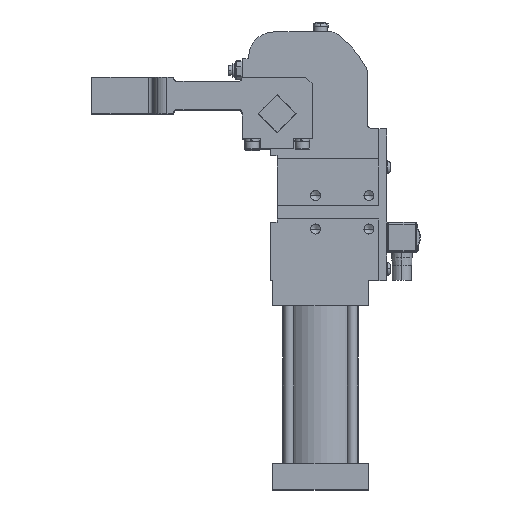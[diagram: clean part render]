
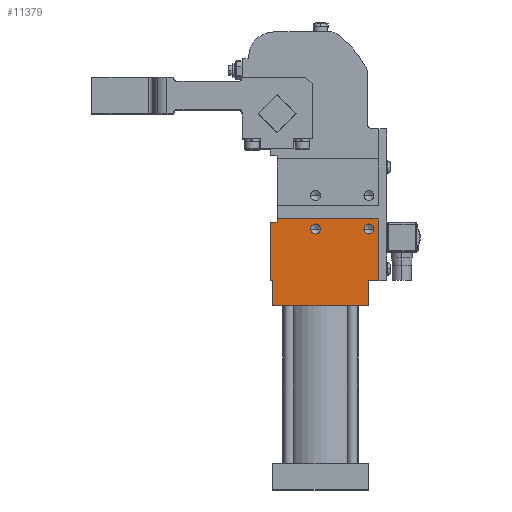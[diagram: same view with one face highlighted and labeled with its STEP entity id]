
A CAD part, top view. The second image highlights one B-rep face of the part: STEP entity #11379.
In plain terms, the highlighted planar face has unit normal (0, 0, 1).
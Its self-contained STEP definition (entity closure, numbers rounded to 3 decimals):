
#687=CARTESIAN_POINT('',(48.648,-66.104,50.0));
#688=VERTEX_POINT('',#687);
#704=CARTESIAN_POINT('',(42.648,-66.104,50.0));
#705=VERTEX_POINT('',#704);
#712=CARTESIAN_POINT('',(45.648,-66.104,50.0));
#713=DIRECTION('',(0.0,0.0,-1.0));
#714=DIRECTION('',(1.0,0.0,0.0));
#715=AXIS2_PLACEMENT_3D('',#712,#713,#714);
#716=CIRCLE('',#715,3.);
#717=EDGE_CURVE('',#688,#705,#716,.T.);
#1026=CARTESIAN_POINT('',(16.648,-66.104,50.0));
#1027=VERTEX_POINT('',#1026);
#1043=CARTESIAN_POINT('',(10.648,-66.104,50.0));
#1044=VERTEX_POINT('',#1043);
#1051=CARTESIAN_POINT('',(13.648,-66.104,50.0));
#1052=DIRECTION('',(0.0,0.0,-1.0));
#1053=DIRECTION('',(1.0,0.0,0.0));
#1054=AXIS2_PLACEMENT_3D('',#1051,#1052,#1053);
#1055=CIRCLE('',#1054,3.);
#1056=EDGE_CURVE('',#1027,#1044,#1055,.T.);
#7633=CARTESIAN_POINT('',(51.648,-97.104,50.0));
#7634=VERTEX_POINT('',#7633);
#7641=CARTESIAN_POINT('',(45.223,-97.104,50.0));
#7642=VERTEX_POINT('',#7641);
#7643=CARTESIAN_POINT('',(51.648,-97.104,50.0));
#7644=DIRECTION('',(-1.0,0.0,0.0));
#7645=VECTOR('',#7644,6.425);
#7646=LINE('',#7643,#7645);
#7647=EDGE_CURVE('',#7634,#7642,#7646,.T.);
#9717=CARTESIAN_POINT('',(13.648,-66.104,50.0));
#9718=DIRECTION('',(0.0,0.0,-1.0));
#9719=DIRECTION('',(1.0,0.0,0.0));
#9720=AXIS2_PLACEMENT_3D('',#9717,#9718,#9719);
#9721=CIRCLE('',#9720,3.);
#9722=EDGE_CURVE('',#1044,#1027,#9721,.T.);
#9930=CARTESIAN_POINT('',(45.648,-66.104,50.0));
#9931=DIRECTION('',(0.0,0.0,-1.0));
#9932=DIRECTION('',(1.0,0.0,0.0));
#9933=AXIS2_PLACEMENT_3D('',#9930,#9931,#9932);
#9934=CIRCLE('',#9933,3.);
#9935=EDGE_CURVE('',#705,#688,#9934,.T.);
#10085=CARTESIAN_POINT('',(45.223,-112.104,50.0));
#10086=VERTEX_POINT('',#10085);
#10093=CARTESIAN_POINT('',(-11.927,-112.104,50.0));
#10094=VERTEX_POINT('',#10093);
#10095=CARTESIAN_POINT('',(-11.927,-112.104,50.0));
#10096=DIRECTION('',(1.0,0.0,0.0));
#10097=VECTOR('',#10096,57.15);
#10098=LINE('',#10095,#10097);
#10099=EDGE_CURVE('',#10094,#10086,#10098,.T.);
#10160=CARTESIAN_POINT('',(-11.927,-97.104,50.0));
#10161=VERTEX_POINT('',#10160);
#10162=CARTESIAN_POINT('',(-11.927,-97.104,50.0));
#10163=DIRECTION('',(0.0,-1.0,0.0));
#10164=VECTOR('',#10163,15.0);
#10165=LINE('',#10162,#10164);
#10166=EDGE_CURVE('',#10161,#10094,#10165,.T.);
#10198=CARTESIAN_POINT('',(45.223,-97.104,50.0));
#10199=DIRECTION('',(0.0,-1.0,0.0));
#10200=VECTOR('',#10199,15.0);
#10201=LINE('',#10198,#10200);
#10202=EDGE_CURVE('',#7642,#10086,#10201,.T.);
#10217=CARTESIAN_POINT('',(-13.352,-97.104,50.0));
#10218=VERTEX_POINT('',#10217);
#10219=CARTESIAN_POINT('',(-11.927,-97.104,50.0));
#10220=DIRECTION('',(-1.0,0.0,0.0));
#10221=VECTOR('',#10220,1.425);
#10222=LINE('',#10219,#10221);
#10223=EDGE_CURVE('',#10161,#10218,#10222,.T.);
#10462=CARTESIAN_POINT('',(-9.352,-62.104,50.0));
#10463=VERTEX_POINT('',#10462);
#10470=CARTESIAN_POINT('',(-9.352,-60.104,50.0));
#10471=VERTEX_POINT('',#10470);
#10472=CARTESIAN_POINT('',(-9.352,-60.104,50.0));
#10473=DIRECTION('',(0.0,-1.0,0.0));
#10474=VECTOR('',#10473,2.);
#10475=LINE('',#10472,#10474);
#10476=EDGE_CURVE('',#10471,#10463,#10475,.T.);
#10589=CARTESIAN_POINT('',(51.648,-60.104,50.0));
#10590=VERTEX_POINT('',#10589);
#10591=CARTESIAN_POINT('',(51.648,-60.104,50.0));
#10592=DIRECTION('',(-1.0,0.0,0.0));
#10593=VECTOR('',#10592,61.);
#10594=LINE('',#10591,#10593);
#10595=EDGE_CURVE('',#10590,#10471,#10594,.T.);
#10676=CARTESIAN_POINT('',(-13.352,-62.104,50.0));
#10677=VERTEX_POINT('',#10676);
#10684=CARTESIAN_POINT('',(-9.352,-62.104,50.0));
#10685=DIRECTION('',(-1.0,0.0,0.0));
#10686=VECTOR('',#10685,4.);
#10687=LINE('',#10684,#10686);
#10688=EDGE_CURVE('',#10463,#10677,#10687,.T.);
#11344=CARTESIAN_POINT('',(47.095,-10.604,50.0));
#11345=DIRECTION('',(0.0,0.0,1.0));
#11346=DIRECTION('',(1.0,0.0,0.0));
#11347=AXIS2_PLACEMENT_3D('',#11344,#11345,#11346);
#11348=PLANE('',#11347);
#11349=ORIENTED_EDGE('',*,*,#10595,.T.);
#11350=ORIENTED_EDGE('',*,*,#10476,.T.);
#11351=ORIENTED_EDGE('',*,*,#10688,.T.);
#11352=CARTESIAN_POINT('',(-13.352,-97.104,50.0));
#11353=DIRECTION('',(0.0,1.0,0.0));
#11354=VECTOR('',#11353,35.0);
#11355=LINE('',#11352,#11354);
#11356=EDGE_CURVE('',#10218,#10677,#11355,.T.);
#11357=ORIENTED_EDGE('',*,*,#11356,.F.);
#11358=ORIENTED_EDGE('',*,*,#10223,.F.);
#11359=ORIENTED_EDGE('',*,*,#10166,.T.);
#11360=ORIENTED_EDGE('',*,*,#10099,.T.);
#11361=ORIENTED_EDGE('',*,*,#10202,.F.);
#11362=ORIENTED_EDGE('',*,*,#7647,.F.);
#11363=CARTESIAN_POINT('',(51.648,-60.104,50.0));
#11364=DIRECTION('',(0.0,-1.0,0.0));
#11365=VECTOR('',#11364,37.);
#11366=LINE('',#11363,#11365);
#11367=EDGE_CURVE('',#10590,#7634,#11366,.T.);
#11368=ORIENTED_EDGE('',*,*,#11367,.F.);
#11369=EDGE_LOOP('',(#11349,#11350,#11351,#11357,#11358,#11359,#11360,#11361,#11362,#11368));
#11370=FACE_OUTER_BOUND('',#11369,.T.);
#11371=ORIENTED_EDGE('',*,*,#1056,.T.);
#11372=ORIENTED_EDGE('',*,*,#9722,.T.);
#11373=EDGE_LOOP('',(#11371,#11372));
#11374=FACE_BOUND('',#11373,.T.);
#11375=ORIENTED_EDGE('',*,*,#717,.T.);
#11376=ORIENTED_EDGE('',*,*,#9935,.T.);
#11377=EDGE_LOOP('',(#11375,#11376));
#11378=FACE_BOUND('',#11377,.T.);
#11379=ADVANCED_FACE('',(#11370,#11374,#11378),#11348,.T.);
